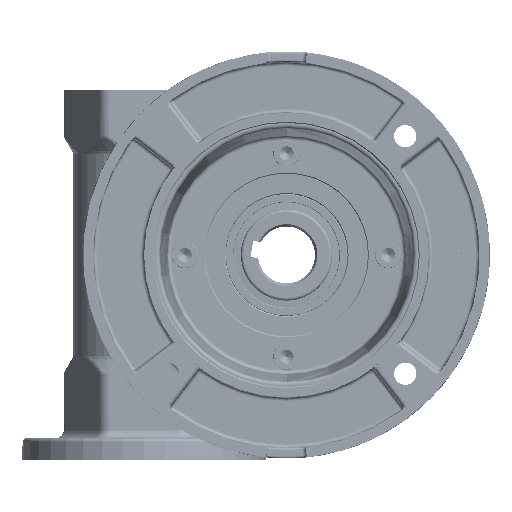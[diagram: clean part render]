
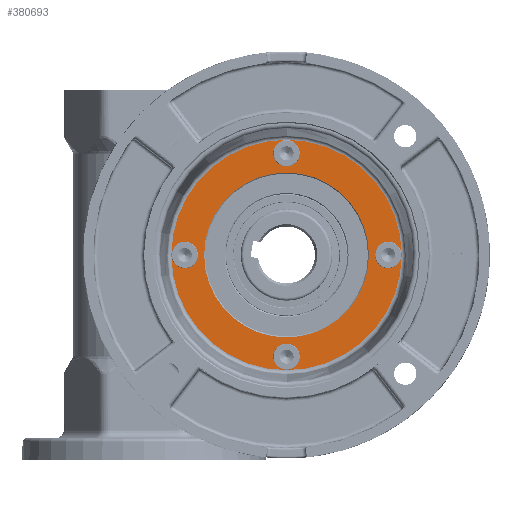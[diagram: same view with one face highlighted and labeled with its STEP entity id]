
A CAD part, left-side view. The second image highlights one B-rep face of the part: STEP entity #380693.
In plain terms, the highlighted planar face has unit normal (-1, 0, 0).
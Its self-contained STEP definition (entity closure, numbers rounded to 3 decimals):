
#14810 = DIRECTION ( 'NONE',  ( -1., 0., 0. ) ) ;
#14811 = CARTESIAN_POINT ( 'NONE',  ( -61.5, -20., 0. ) ) ;
#14812 = AXIS2_PLACEMENT_3D ( 'NONE', #14811, #14810, #15067 ) ;
#14813 = CIRCLE ( 'NONE', #14812, 4.5 ) ;
#14816 = CARTESIAN_POINT ( 'NONE',  ( -61.5, -20., -4.5 ) ) ;
#15031 = DIRECTION ( 'NONE',  ( -1., 0., 0. ) ) ;
#15032 = CARTESIAN_POINT ( 'NONE',  ( -61.5, -70., 50. ) ) ;
#15033 = AXIS2_PLACEMENT_3D ( 'NONE', #15032, #15031, #15095 ) ;
#15034 = CIRCLE ( 'NONE', #15033, 4.5 ) ;
#15035 = CARTESIAN_POINT ( 'NONE',  ( -61.5, -70., 45.5 ) ) ;
#15067 = DIRECTION ( 'NONE',  ( 0., 0., 1. ) ) ;
#15094 = CARTESIAN_POINT ( 'NONE',  ( -61.5, -70., 54.5 ) ) ;
#15095 = DIRECTION ( 'NONE',  ( 0., 0., 1. ) ) ;
#15124 = CARTESIAN_POINT ( 'NONE',  ( -61.5, -20., 4.5 ) ) ;
#15125 = CARTESIAN_POINT ( 'NONE',  ( -61.5, -70., -54.5 ) ) ;
#15185 = CARTESIAN_POINT ( 'NONE',  ( -61.5, -70., -45.5 ) ) ;
#15186 = DIRECTION ( 'NONE',  ( 0., 0., 1. ) ) ;
#15187 = DIRECTION ( 'NONE',  ( -1., 0., 0. ) ) ;
#15188 = CARTESIAN_POINT ( 'NONE',  ( -61.5, -70., -50. ) ) ;
#15189 = AXIS2_PLACEMENT_3D ( 'NONE', #15188, #15187, #15186 ) ;
#15190 = CIRCLE ( 'NONE', #15189, 4.5 ) ;
#15213 = CARTESIAN_POINT ( 'NONE',  ( -61.5, -120., 4.5 ) ) ;
#15214 = DIRECTION ( 'NONE',  ( 0., 0., 1. ) ) ;
#15215 = DIRECTION ( 'NONE',  ( -1., 0., 0. ) ) ;
#15216 = CARTESIAN_POINT ( 'NONE',  ( -61.5, -120., 0. ) ) ;
#15217 = AXIS2_PLACEMENT_3D ( 'NONE', #15216, #15215, #15214 ) ;
#15218 = CIRCLE ( 'NONE', #15217, 4.5 ) ;
#15219 = CARTESIAN_POINT ( 'NONE',  ( -61.5, -120., -4.5 ) ) ;
#15259 = CARTESIAN_POINT ( 'NONE',  ( -61.5, -70., 40.5 ) ) ;
#15260 = DIRECTION ( 'NONE',  ( 0., 0., -1. ) ) ;
#15261 = DIRECTION ( 'NONE',  ( 1., 0., 0. ) ) ;
#15262 = CARTESIAN_POINT ( 'NONE',  ( -61.5, -70., 0. ) ) ;
#15263 = AXIS2_PLACEMENT_3D ( 'NONE', #15262, #15261, #15260 ) ;
#15264 = CIRCLE ( 'NONE', #15263, 40.5 ) ;
#15265 = CARTESIAN_POINT ( 'NONE',  ( -61.5, -70., -40.5 ) ) ;
#16923 = CARTESIAN_POINT ( 'NONE',  ( -61.5, -70., 56.611 ) ) ;
#16924 = CARTESIAN_POINT ( 'NONE',  ( -61.5, -70., -56.611 ) ) ;
#16925 = DIRECTION ( 'NONE',  ( 0., 0., 1. ) ) ;
#16926 = DIRECTION ( 'NONE',  ( -1., 0., 0. ) ) ;
#16927 = AXIS2_PLACEMENT_3D ( 'NONE', #16933, #16926, #16925 ) ;
#16928 = CIRCLE ( 'NONE', #16927, 56.611 ) ;
#16933 = CARTESIAN_POINT ( 'NONE',  ( -61.5, -70., 0. ) ) ;
#22335 = DIRECTION ( 'NONE',  ( 0., 0., 1. ) ) ;
#22337 = DIRECTION ( 'NONE',  ( -1., 0., 0. ) ) ;
#22339 = CARTESIAN_POINT ( 'NONE',  ( -61.5, -20., 0. ) ) ;
#22340 = AXIS2_PLACEMENT_3D ( 'NONE', #22339, #22337, #22335 ) ;
#22341 = CIRCLE ( 'NONE', #22340, 4.5 ) ;
#22347 = DIRECTION ( 'NONE',  ( 0., 0., -1. ) ) ;
#22349 = DIRECTION ( 'NONE',  ( 1., 0., 0. ) ) ;
#22351 = CARTESIAN_POINT ( 'NONE',  ( -61.5, -13.389, 0. ) ) ;
#22352 = AXIS2_PLACEMENT_3D ( 'NONE', #22351, #22349, #22347 ) ;
#22354 = PLANE ( 'NONE',  #22352 ) ;
#22359 = FACE_OUTER_BOUND ( 'NONE', #380800, .T. ) ;
#22361 = FACE_BOUND ( 'NONE', #380661, .T. ) ;
#22362 = FACE_BOUND ( 'NONE', #380850, .T. ) ;
#22364 = FACE_BOUND ( 'NONE', #380836, .T. ) ;
#22366 = FACE_BOUND ( 'NONE', #380708, .T. ) ;
#22367 = FACE_BOUND ( 'NONE', #380696, .T. ) ;
#22648 = AXIS2_PLACEMENT_3D ( 'NONE', #22808, #22806, #22804 ) ;
#22649 = CIRCLE ( 'NONE', #22648, 56.611 ) ;
#22655 = DIRECTION ( 'NONE',  ( 0., 0., -1. ) ) ;
#22657 = DIRECTION ( 'NONE',  ( 1., 0., 0. ) ) ;
#22659 = CARTESIAN_POINT ( 'NONE',  ( -61.5, -70., 0. ) ) ;
#22661 = AXIS2_PLACEMENT_3D ( 'NONE', #22659, #22657, #22655 ) ;
#22663 = CIRCLE ( 'NONE', #22661, 40.5 ) ;
#22737 = DIRECTION ( 'NONE',  ( 0., 0., 1. ) ) ;
#22739 = DIRECTION ( 'NONE',  ( -1., 0., 0. ) ) ;
#22741 = CARTESIAN_POINT ( 'NONE',  ( -61.5, -120., 0. ) ) ;
#22742 = AXIS2_PLACEMENT_3D ( 'NONE', #22741, #22739, #22737 ) ;
#22743 = CIRCLE ( 'NONE', #22742, 4.5 ) ;
#22748 = DIRECTION ( 'NONE',  ( 0., 0., 1. ) ) ;
#22750 = DIRECTION ( 'NONE',  ( -1., 0., 0. ) ) ;
#22752 = CARTESIAN_POINT ( 'NONE',  ( -61.5, -70., 50. ) ) ;
#22753 = AXIS2_PLACEMENT_3D ( 'NONE', #22752, #22750, #22748 ) ;
#22755 = CIRCLE ( 'NONE', #22753, 4.5 ) ;
#22804 = DIRECTION ( 'NONE',  ( 0., 0., 1. ) ) ;
#22806 = DIRECTION ( 'NONE',  ( -1., 0., 0. ) ) ;
#22808 = CARTESIAN_POINT ( 'NONE',  ( -61.5, -70., 0. ) ) ;
#22882 = DIRECTION ( 'NONE',  ( 0., 0., 1. ) ) ;
#22884 = DIRECTION ( 'NONE',  ( -1., 0., 0. ) ) ;
#22886 = CARTESIAN_POINT ( 'NONE',  ( -61.5, -70., -50. ) ) ;
#22887 = AXIS2_PLACEMENT_3D ( 'NONE', #22886, #22884, #22882 ) ;
#22889 = CIRCLE ( 'NONE', #22887, 4.5 ) ;
#376293 = VERTEX_POINT ( 'NONE', #15035 ) ;
#376296 = EDGE_CURVE ( 'NONE', #376293, #376299, #15034, .T. ) ;
#376299 = VERTEX_POINT ( 'NONE', #15094 ) ;
#376329 = VERTEX_POINT ( 'NONE', #14816 ) ;
#376332 = EDGE_CURVE ( 'NONE', #376329, #376334, #14813, .T. ) ;
#376334 = VERTEX_POINT ( 'NONE', #15124 ) ;
#376403 = VERTEX_POINT ( 'NONE', #15125 ) ;
#376406 = EDGE_CURVE ( 'NONE', #376403, #376407, #15190, .T. ) ;
#376407 = VERTEX_POINT ( 'NONE', #15185 ) ;
#376448 = VERTEX_POINT ( 'NONE', #15219 ) ;
#376450 = EDGE_CURVE ( 'NONE', #376448, #376452, #15218, .T. ) ;
#376452 = VERTEX_POINT ( 'NONE', #15213 ) ;
#376552 = VERTEX_POINT ( 'NONE', #15265 ) ;
#376557 = EDGE_CURVE ( 'NONE', #376561, #376552, #15264, .T. ) ;
#376561 = VERTEX_POINT ( 'NONE', #15259 ) ;
#378300 = EDGE_CURVE ( 'NONE', #378301, #378302, #16928, .T. ) ;
#378301 = VERTEX_POINT ( 'NONE', #16924 ) ;
#378302 = VERTEX_POINT ( 'NONE', #16923 ) ;
#380656 = ORIENTED_EDGE ( 'NONE', *, *, #376406, .F. ) ;
#380661 = EDGE_LOOP ( 'NONE', ( #380664, #380667 ) ) ;
#380664 = ORIENTED_EDGE ( 'NONE', *, *, #376557, .T. ) ;
#380667 = ORIENTED_EDGE ( 'NONE', *, *, #380799, .T. ) ;
#380693 = ADVANCED_FACE ( 'NONE', ( #22367, #22366, #22364, #22362, #22361, #22359 ), #22354, .F. ) ;
#380696 = EDGE_LOOP ( 'NONE', ( #380698, #380704 ) ) ;
#380698 = ORIENTED_EDGE ( 'NONE', *, *, #380701, .F. ) ;
#380701 = EDGE_CURVE ( 'NONE', #376334, #376329, #22341, .T. ) ;
#380704 = ORIENTED_EDGE ( 'NONE', *, *, #376332, .F. ) ;
#380708 = EDGE_LOOP ( 'NONE', ( #380711, #380833 ) ) ;
#380711 = ORIENTED_EDGE ( 'NONE', *, *, #380830, .F. ) ;
#380799 = EDGE_CURVE ( 'NONE', #376552, #376561, #22663, .T. ) ;
#380800 = EDGE_LOOP ( 'NONE', ( #380801, #380808 ) ) ;
#380801 = ORIENTED_EDGE ( 'NONE', *, *, #380803, .T. ) ;
#380803 = EDGE_CURVE ( 'NONE', #378302, #378301, #22649, .T. ) ;
#380808 = ORIENTED_EDGE ( 'NONE', *, *, #378300, .T. ) ;
#380830 = EDGE_CURVE ( 'NONE', #376299, #376293, #22755, .T. ) ;
#380833 = ORIENTED_EDGE ( 'NONE', *, *, #376296, .F. ) ;
#380836 = EDGE_LOOP ( 'NONE', ( #380838, #380844 ) ) ;
#380838 = ORIENTED_EDGE ( 'NONE', *, *, #380841, .F. ) ;
#380841 = EDGE_CURVE ( 'NONE', #376452, #376448, #22743, .T. ) ;
#380844 = ORIENTED_EDGE ( 'NONE', *, *, #376450, .F. ) ;
#380850 = EDGE_LOOP ( 'NONE', ( #380854, #380656 ) ) ;
#380854 = ORIENTED_EDGE ( 'NONE', *, *, #380855, .F. ) ;
#380855 = EDGE_CURVE ( 'NONE', #376407, #376403, #22889, .T. ) ;
